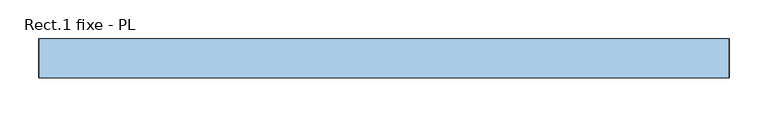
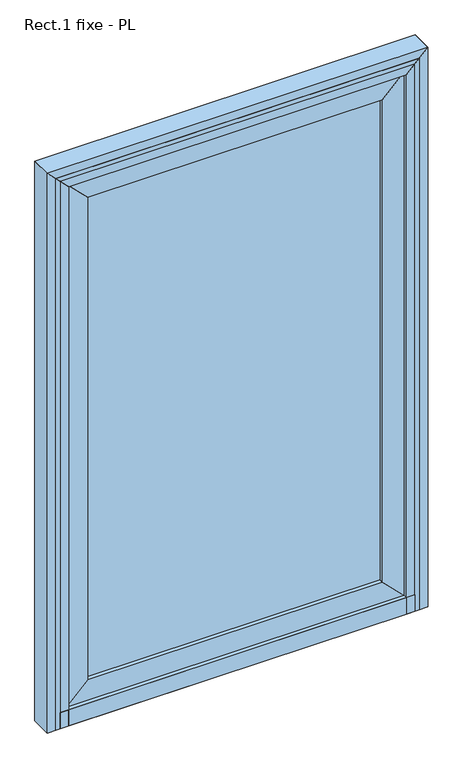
"""IFC4 building model written with IfcOpenShell, lengths in millimetres: window geometry, Rect.1 fixe - PL : 89*137."""

from ifc_helpers import new_model, si_unit, frame, origin, origin_with_axes, place, context, project, spatial, polyline, outline, extrude, source, transform, mapped, element, save


def rect_1_fixe_pl_2fe2d81b(model_context):
    return source(origin(), model_context, "Body", "SweptSolid", [
        extrude(outline(polyline([(344.15, -10.0), (344.15, -30.0), (-344.15, -30.0), (-344.15, -10.0), (344.15, -10.0)])), frame((0.0, 0.0, 90.0), z_axis=(0.0, 0.0, 1.0), x_axis=(1.0, 0.0, 0.0)), (0.0, 0.0, 1.0), 1190.0),
        extrude(outline(polyline([(40.0, -394.15), (90.0, -344.15), (1280.0, -344.15), (1330.0, -394.15), (40.0, -394.15)])), frame((0.0, -40.0, 0.0), z_axis=(0.0, 1.0, 0.0), x_axis=(0.0, 0.0, 1.0)), (0.0, 0.0, 1.0), 40.0),
        extrude(outline(polyline([(90.0, 344.15), (40.0, 394.15), (1330.0, 394.15), (1280.0, 344.15), (90.0, 344.15)])), frame((0.0, -40.0, 0.0), z_axis=(0.0, 1.0, 0.0), x_axis=(0.0, 0.0, 1.0)), (0.0, 0.0, 1.0), 40.0),
        extrude(outline(polyline([(1330.0, 394.15), (1330.0, -394.15), (1280.0, -344.15), (1280.0, 344.15), (1330.0, 394.15)])), frame((0.0, -40.0, 0.0), z_axis=(0.0, 1.0, 0.0), x_axis=(0.0, 0.0, 1.0)), (0.0, 0.0, 1.0), 40.0),
        extrude(outline(polyline([(40.0, 394.15), (90.0, 344.15), (90.0, -344.15), (40.0, -394.15), (40.0, 394.15)])), frame((0.0, -40.0, 0.0), z_axis=(0.0, 1.0, 0.0), x_axis=(0.0, 0.0, 1.0)), (0.0, 0.0, 1.0), 40.0),
        extrude(outline(polyline([(394.15, -50.0), (-394.15, -50.0), (-394.15, 0.0), (394.15, 0.0), (394.15, -50.0)])), origin_with_axes(), (0.0, 0.0, 1.0), 40.0),
        extrude(outline(polyline([(-20.0, 30.0), (-20.0, 0.0), (-50.0, 0.0), (-50.0, 40.0), (-20.0, 30.0)])), frame((-414.15, 0.0, 0.0), z_axis=(1.0, 0.0, 0.0), x_axis=(0.0, 1.0, 0.0)), (0.0, 0.0, 1.0), 828.3),
        extrude(outline(polyline([(1360.0, -424.15), (0.0, -424.15), (0.0, -414.15), (1350.0, -414.15), (1360.0, -424.15)])), frame((0.0, -50.0, 0.0), z_axis=(0.0, 1.0, 0.0), x_axis=(0.0, 0.0, 1.0)), (0.0, 0.0, 1.0), 40.0),
        extrude(outline(polyline([(1360.0, 424.15), (1350.0, 414.15), (0.0, 414.15), (0.0, 424.15), (1360.0, 424.15)])), frame((0.0, -50.0, 0.0), z_axis=(0.0, 1.0, 0.0), x_axis=(0.0, 0.0, 1.0)), (0.0, 0.0, 1.0), 40.0),
        extrude(outline(polyline([(0.0, -444.15), (0.0, -394.15), (1330.0, -394.15), (1380.0, -444.15), (0.0, -444.15)])), frame((0.0, -50.0, 0.0), z_axis=(0.0, 1.0, 0.0), x_axis=(0.0, 0.0, 1.0)), (0.0, 0.0, 1.0), 50.0),
        extrude(outline(polyline([(0.0, 444.15), (1380.0, 444.15), (1330.0, 394.15), (0.0, 394.15), (0.0, 444.15)])), frame((0.0, -50.0, 0.0), z_axis=(0.0, 1.0, 0.0), x_axis=(0.0, 0.0, 1.0)), (0.0, 0.0, 1.0), 50.0),
        extrude(outline(polyline([(1360.0, -424.15), (1350.0, -414.15), (1350.0, 414.15), (1360.0, 424.15), (1360.0, -424.15)])), frame((0.0, -50.0, 0.0), z_axis=(0.0, 1.0, 0.0), x_axis=(0.0, 0.0, 1.0)), (0.0, 0.0, 1.0), 40.0),
        extrude(outline(polyline([(1380.0, 444.15), (1380.0, -444.15), (1330.0, -394.15), (1330.0, 394.15), (1380.0, 444.15)])), frame((0.0, -50.0, 0.0), z_axis=(0.0, 1.0, 0.0), x_axis=(0.0, 0.0, 1.0)), (0.0, 0.0, 1.0), 50.0),
    ])


if __name__ == "__main__":
    model = new_model("IFC4")
    model_context = context("Model", 3, world=origin())
    ifc_project = project(units=[si_unit("LENGTHUNIT", "METRE", prefix="MILLI")], contexts=[model_context])
    site = spatial("IfcSite", under=ifc_project)
    building = spatial("IfcBuilding", under=site)
    placement = place(None, origin())
    rect_1_fixe_pl_shape = rect_1_fixe_pl_2fe2d81b(model_context)
    element("IfcWindow", 1, ObjectType="Rect.1 fixe - PL : 89*137", at=placement, inside=building, context=model_context, shape_type="MappedRepresentation", body=[
        mapped(rect_1_fixe_pl_shape, transform((0.0, 0.0, 0.0), x_axis=(1.0, 0.0, 0.0), y_axis=(0.0, 1.0, 0.0), z_axis=(0.0, 0.0, 1.0))),
    ])
    save(model, "model.ifc")
